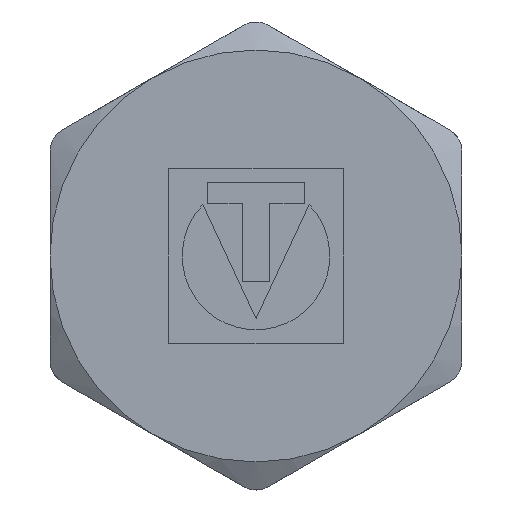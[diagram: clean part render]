
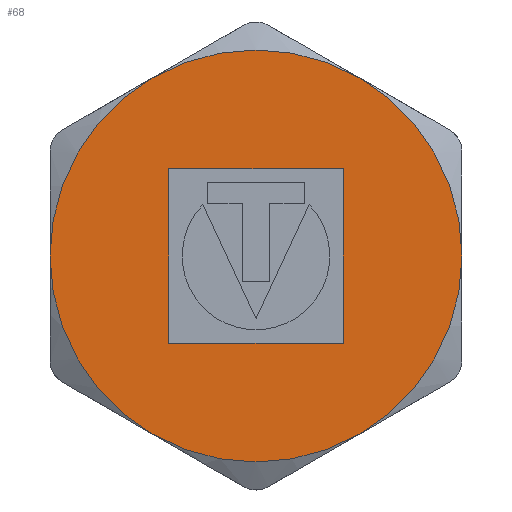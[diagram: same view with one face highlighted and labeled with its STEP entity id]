
A CAD part, front view. The second image highlights one B-rep face of the part: STEP entity #68.
In plain terms, the highlighted planar face has unit normal (0, -1, 0).
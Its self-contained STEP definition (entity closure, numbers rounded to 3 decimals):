
#68=ADVANCED_FACE('',(#266,#268),#270,.F.);
#266=FACE_BOUND('',#267,.T.);
#267=EDGE_LOOP('',(#514,#515,#516,#517,#518,#519));
#268=FACE_BOUND('',#269,.T.);
#269=EDGE_LOOP('',(#520,#521,#522,#523));
#270=PLANE('',#271);
#271=AXIS2_PLACEMENT_3D('',#272,#273,#274);
#272=CARTESIAN_POINT('',(0.,0.,0.));
#273=DIRECTION('',(0.,1.,0.));
#274=DIRECTION('',(-1.,0.,0.));
#514=ORIENTED_EDGE('',*,*,#664,.T.);
#515=ORIENTED_EDGE('',*,*,#663,.T.);
#516=ORIENTED_EDGE('',*,*,#662,.T.);
#517=ORIENTED_EDGE('',*,*,#661,.T.);
#518=ORIENTED_EDGE('',*,*,#660,.T.);
#519=ORIENTED_EDGE('',*,*,#665,.T.);
#520=ORIENTED_EDGE('',*,*,#666,.F.);
#521=ORIENTED_EDGE('',*,*,#667,.F.);
#522=ORIENTED_EDGE('',*,*,#668,.F.);
#523=ORIENTED_EDGE('',*,*,#669,.F.);
#660=EDGE_CURVE('',#752,#792,#795,.F.);
#661=EDGE_CURVE('',#760,#752,#796,.F.);
#662=EDGE_CURVE('',#768,#760,#797,.F.);
#663=EDGE_CURVE('',#776,#768,#798,.F.);
#664=EDGE_CURVE('',#784,#776,#799,.F.);
#665=EDGE_CURVE('',#792,#784,#800,.F.);
#666=EDGE_CURVE('',#801,#802,#803,.F.);
#667=EDGE_CURVE('',#804,#801,#805,.F.);
#668=EDGE_CURVE('',#806,#804,#807,.F.);
#669=EDGE_CURVE('',#802,#806,#808,.F.);
#752=VERTEX_POINT('',#1024);
#760=VERTEX_POINT('',#1156);
#768=VERTEX_POINT('',#1276);
#776=VERTEX_POINT('',#1396);
#784=VERTEX_POINT('',#1519);
#792=VERTEX_POINT('',#1639);
#795=CIRCLE('',#1695,33.);
#796=CIRCLE('',#1699,33.);
#797=CIRCLE('',#1703,33.);
#798=CIRCLE('',#1707,33.);
#799=CIRCLE('',#1711,33.);
#800=CIRCLE('',#1715,33.);
#801=VERTEX_POINT('',#1719);
#802=VERTEX_POINT('',#1720);
#803=LINE('',#1721,#1722);
#804=VERTEX_POINT('',#1724);
#805=LINE('',#1725,#1726);
#806=VERTEX_POINT('',#1728);
#807=LINE('',#1729,#1730);
#808=LINE('',#1732,#1733);
#1024=CARTESIAN_POINT('',(-33.,0.,0.));
#1156=CARTESIAN_POINT('',(-16.5,0.,28.579));
#1276=CARTESIAN_POINT('',(16.5,0.,28.579));
#1396=CARTESIAN_POINT('',(33.,0.,0.));
#1519=CARTESIAN_POINT('',(16.5,0.,-28.579));
#1639=CARTESIAN_POINT('',(-16.5,0.,-28.579));
#1695=AXIS2_PLACEMENT_3D('',#1696,#1697,#1698);
#1696=CARTESIAN_POINT('',(0.,0.,0.));
#1697=DIRECTION('',(0.,1.,0.));
#1698=DIRECTION('',(-0.5,0.,-0.866));
#1699=AXIS2_PLACEMENT_3D('',#1700,#1701,#1702);
#1700=CARTESIAN_POINT('',(0.,0.,0.));
#1701=DIRECTION('',(0.,1.,0.));
#1702=DIRECTION('',(-1.,0.,0.));
#1703=AXIS2_PLACEMENT_3D('',#1704,#1705,#1706);
#1704=CARTESIAN_POINT('',(0.,0.,0.));
#1705=DIRECTION('',(0.,1.,0.));
#1706=DIRECTION('',(-0.5,0.,0.866));
#1707=AXIS2_PLACEMENT_3D('',#1708,#1709,#1710);
#1708=CARTESIAN_POINT('',(0.,0.,0.));
#1709=DIRECTION('',(0.,1.,0.));
#1710=DIRECTION('',(0.5,0.,0.866));
#1711=AXIS2_PLACEMENT_3D('',#1712,#1713,#1714);
#1712=CARTESIAN_POINT('',(0.,0.,0.));
#1713=DIRECTION('',(0.,1.,0.));
#1714=DIRECTION('',(1.,0.,0.));
#1715=AXIS2_PLACEMENT_3D('',#1716,#1717,#1718);
#1716=CARTESIAN_POINT('',(0.,0.,0.));
#1717=DIRECTION('',(0.,1.,0.));
#1718=DIRECTION('',(0.5,0.,-0.866));
#1719=CARTESIAN_POINT('',(-14.007,0.,14.007));
#1720=CARTESIAN_POINT('',(-14.007,0.,-14.007));
#1721=CARTESIAN_POINT('',(-14.007,0.,-14.007));
#1722=VECTOR('',#1723,1.);
#1723=DIRECTION('',(0.,0.,1.));
#1724=CARTESIAN_POINT('',(14.013,0.,14.007));
#1725=CARTESIAN_POINT('',(-14.007,0.,14.007));
#1726=VECTOR('',#1727,1.);
#1727=DIRECTION('',(1.,0.,0.));
#1728=CARTESIAN_POINT('',(14.007,0.,-14.007));
#1729=CARTESIAN_POINT('',(14.013,0.,14.007));
#1730=VECTOR('',#1731,1.);
#1731=DIRECTION('',(0.,0.,-1.));
#1732=CARTESIAN_POINT('',(14.007,0.,-14.007));
#1733=VECTOR('',#1734,1.);
#1734=DIRECTION('',(-1.,0.,0.));
